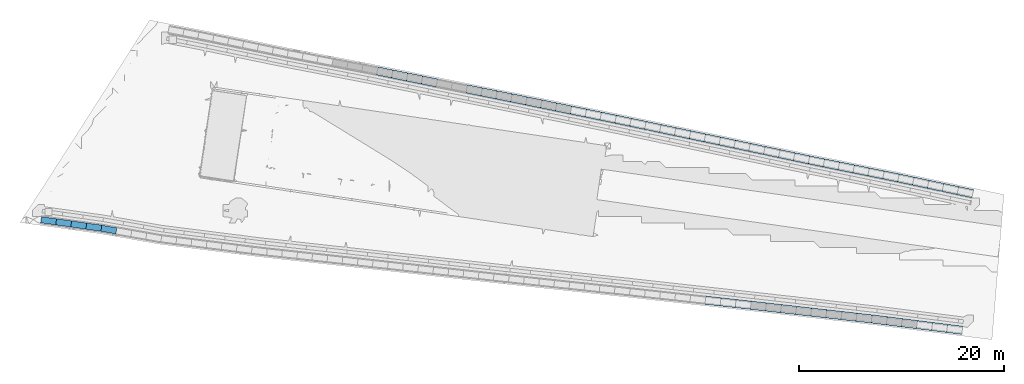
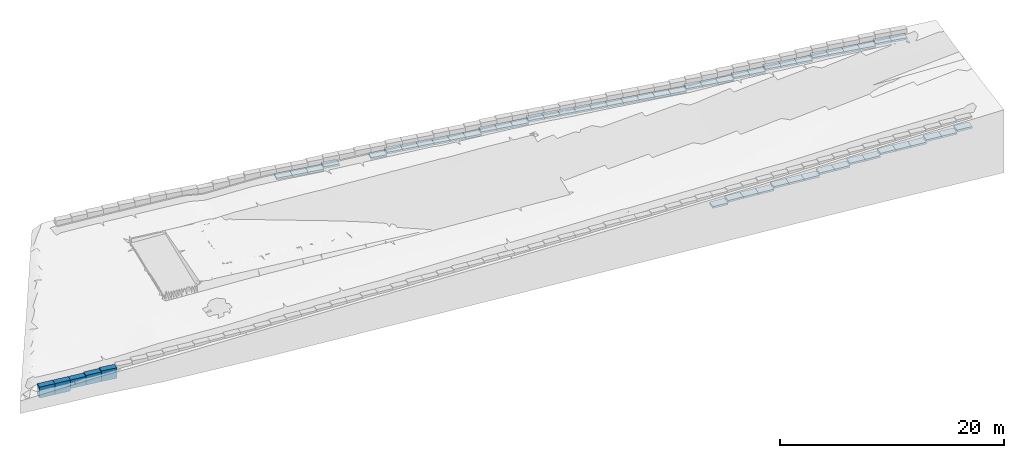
# Not in any storey, part 2 of 7: 55 footings, 5 walls.
"""IFC4 model written with IfcOpenShell, lengths in metres."""

from ifc_helpers import new_model, si_unit, direction, frame, origin_with_axes, place, context, subcontext, project, spatial, polyline, outline, extrude, material, element, save


model = new_model("IFC4")

# Units and contexts
model_context = context("Model", 3, precision=1e-05, world=origin_with_axes(), true_north=direction((0.0, 1.0)))
body_context = subcontext(model_context, "Body", "Model", "MODEL_VIEW")
ifc_project = project(units=[si_unit("VOLUMEUNIT", "CUBIC_METRE"), si_unit("LENGTHUNIT", "METRE"), si_unit("AREAUNIT", "SQUARE_METRE")], contexts=[model_context])

# Site
site_placement = place(None, origin_with_axes())
site = spatial("IfcSite", under=ifc_project, at=site_placement, Name="Lares · Rua das Mercês · artigo 4771")

# Footings
ifc_material_1 = material(Name="Betão armado / Stahlbeton", Category="concrete")
footing_1_placement = place(site_placement, frame((0.0, 0.0, 13.55), z_axis=(0.0, 0.0, 1.0), x_axis=(1.0, -1.03767253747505e-17, 0.0)))
element("IfcFooting", 1, at=footing_1_placement, inside=site, material=ifc_material_1, Name="Limite north · base 15", PredefinedType="STRIP_FOOTING", context=body_context, shape_type="SweptSolid", body=[
    extrude(outline(polyline([(24.2709499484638, 19.7570442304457), (24.1120919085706, 18.9729752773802), (22.6590709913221, 19.2673678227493), (22.8179290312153, 20.0514367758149), (24.2709499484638, 19.7570442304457)])), origin_with_axes(), (0.0, 0.0, 1.0), 0.2),
])
footing_2_placement = place(site_placement, frame((0.0, 0.0, 13.55), z_axis=(0.0, 0.0, 1.0), x_axis=(1.0, -1.03767253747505e-17, 0.0)))
element("IfcFooting", 2, at=footing_2_placement, inside=site, material=ifc_material_1, Name="Limite north · base 16", PredefinedType="STRIP_FOOTING", context=body_context, shape_type="SweptSolid", body=[
    extrude(outline(polyline([(25.7239708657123, 19.4626516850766), (25.5651128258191, 18.678582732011), (24.1120919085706, 18.9729752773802), (24.2709499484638, 19.7570442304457), (25.7239708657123, 19.4626516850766)])), origin_with_axes(), (0.0, 0.0, 1.0), 0.2),
])
footing_3_placement = place(site_placement, frame((0.0, 0.0, 13.55), z_axis=(0.0, 0.0, 1.0), x_axis=(1.0, -1.03767253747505e-17, 0.0)))
element("IfcFooting", 3, at=footing_3_placement, inside=site, material=ifc_material_1, Name="Limite north · base 17", PredefinedType="STRIP_FOOTING", context=body_context, shape_type="SweptSolid", body=[
    extrude(outline(polyline([(27.1769917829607, 19.1682591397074), (27.0181337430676, 18.3841901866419), (25.5651128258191, 18.678582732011), (25.7239708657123, 19.4626516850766), (27.1769917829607, 19.1682591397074)])), origin_with_axes(), (0.0, 0.0, 1.0), 0.2),
])
footing_4_placement = place(site_placement, frame((0.0, 0.0, 13.8), z_axis=(0.0, 0.0, 1.0), x_axis=(1.0, -1.03767253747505e-17, 0.0)))
element("IfcFooting", 4, at=footing_4_placement, inside=site, material=ifc_material_1, Name="Limite north · base 18", PredefinedType="STRIP_FOOTING", context=body_context, shape_type="SweptSolid", body=[
    extrude(outline(polyline([(27.7861335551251, 19.0448426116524), (28.62934831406, 18.8766201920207), (28.4728316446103, 18.0920804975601), (27.6290313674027, 18.2604197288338), (27.627860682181, 18.2606550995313), (27.0181337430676, 18.3841901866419), (27.1769917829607, 19.1682591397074), (27.7861335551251, 19.0448426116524)])), origin_with_axes(), (0.0, 0.0, 1.0), 0.2),
])
footing_5_placement = place(site_placement, frame((0.0, 0.0, 13.8), z_axis=(0.0, 0.0, 1.0), x_axis=(1.0, -1.03767253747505e-17, 0.0)))
element("IfcFooting", 5, at=footing_5_placement, inside=site, material=ifc_material_1, Name="Limite north · base 21", PredefinedType="STRIP_FOOTING", context=body_context, shape_type="SweptSolid", body=[
    extrude(outline(polyline([(32.9910281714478, 18.0064594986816), (32.8345115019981, 17.2219198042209), (31.3806182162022, 17.5119733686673), (31.5371348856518, 18.296513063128), (32.9910281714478, 18.0064594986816)])), origin_with_axes(), (0.0, 0.0, 1.0), 0.2),
])
footing_6_placement = place(site_placement, frame((0.0, 0.0, 14.05), z_axis=(0.0, 0.0, 1.0), x_axis=(1.0, -1.03767253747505e-17, 0.0)))
element("IfcFooting", 6, at=footing_6_placement, inside=site, material=ifc_material_1, Name="Limite north · base 22", PredefinedType="STRIP_FOOTING", context=body_context, shape_type="SweptSolid", body=[
    extrude(outline(polyline([(34.4449214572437, 17.7164059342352), (34.288404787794, 16.9318662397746), (32.8345115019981, 17.2219198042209), (32.9910281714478, 18.0064594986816), (34.4449214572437, 17.7164059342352)])), origin_with_axes(), (0.0, 0.0, 1.0), 0.2),
])
footing_7_placement = place(site_placement, frame((0.0, 0.0, 14.05), z_axis=(0.0, 0.0, 1.0), x_axis=(1.0, -1.03767253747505e-17, 0.0)))
element("IfcFooting", 7, at=footing_7_placement, inside=site, material=ifc_material_1, Name="Limite north · base 23", PredefinedType="STRIP_FOOTING", context=body_context, shape_type="SweptSolid", body=[
    extrude(outline(polyline([(35.8988147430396, 17.4263523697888), (35.74229807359, 16.6418126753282), (34.288404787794, 16.9318662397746), (34.4449214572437, 17.7164059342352), (35.8988147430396, 17.4263523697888)])), origin_with_axes(), (0.0, 0.0, 1.0), 0.2),
])
footing_8_placement = place(site_placement, frame((0.0, 0.0, 14.05), z_axis=(0.0, 0.0, 1.0), x_axis=(1.0, -1.03767253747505e-17, 0.0)))
element("IfcFooting", 8, at=footing_8_placement, inside=site, material=ifc_material_1, Name="Limite north · base 24", PredefinedType="STRIP_FOOTING", context=body_context, shape_type="SweptSolid", body=[
    extrude(outline(polyline([(36.6074929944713, 17.2849701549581), (36.6094703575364, 17.2845704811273), (37.3539261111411, 17.1321426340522), (37.1934547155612, 16.3484022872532), (36.4499871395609, 16.5006278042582), (35.74229807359, 16.6418126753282), (35.8988147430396, 17.4263523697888), (36.6074929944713, 17.2849701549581)])), origin_with_axes(), (0.0, 0.0, 1.0), 0.2),
])
footing_9_placement = place(site_placement, frame((0.0, 0.0, 14.05), z_axis=(0.0, 0.0, 1.0), x_axis=(1.0, -1.03767253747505e-17, 0.0)))
element("IfcFooting", 9, at=footing_9_placement, inside=site, material=ifc_material_1, Name="Limite north · base 25", PredefinedType="STRIP_FOOTING", context=body_context, shape_type="SweptSolid", body=[
    extrude(outline(polyline([(38.8063380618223, 16.8347602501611), (38.6458666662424, 16.051019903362), (37.1934547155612, 16.3484022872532), (37.3539261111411, 17.1321426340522), (38.8063380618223, 16.8347602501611)])), origin_with_axes(), (0.0, 0.0, 1.0), 0.2),
])
footing_10_placement = place(site_placement, frame((0.0, 0.0, 14.05), z_axis=(0.0, 0.0, 1.0), x_axis=(1.0, -1.03767253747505e-17, 0.0)))
element("IfcFooting", 10, at=footing_10_placement, inside=site, material=ifc_material_1, Name="Limite north · base 26", PredefinedType="STRIP_FOOTING", context=body_context, shape_type="SweptSolid", body=[
    extrude(outline(polyline([(40.2587500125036, 16.5373778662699), (40.0982786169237, 15.7536375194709), (38.6458666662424, 16.051019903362), (38.8063380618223, 16.8347602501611), (40.2587500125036, 16.5373778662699)])), origin_with_axes(), (0.0, 0.0, 1.0), 0.2),
])
footing_11_placement = place(site_placement, frame((0.0, 0.0, 14.05), z_axis=(0.0, 0.0, 1.0), x_axis=(1.0, -1.03767253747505e-17, 0.0)))
element("IfcFooting", 11, at=footing_11_placement, inside=site, material=ifc_material_1, Name="Limite north · base 27", PredefinedType="STRIP_FOOTING", context=body_context, shape_type="SweptSolid", body=[
    extrude(outline(polyline([(41.7111619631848, 16.2399954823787), (41.5506905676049, 15.4562551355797), (40.0982786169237, 15.7536375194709), (40.2587500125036, 16.5373778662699), (41.7111619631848, 16.2399954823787)])), origin_with_axes(), (0.0, 0.0, 1.0), 0.2),
])
footing_12_placement = place(site_placement, frame((0.0, 0.0, 14.3), z_axis=(0.0, 0.0, 1.0), x_axis=(1.0, -1.03767253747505e-17, 0.0)))
element("IfcFooting", 12, at=footing_12_placement, inside=site, material=ifc_material_1, Name="Limite north · base 28", PredefinedType="STRIP_FOOTING", context=body_context, shape_type="SweptSolid", body=[
    extrude(outline(polyline([(43.1635739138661, 15.9426130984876), (43.0031025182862, 15.1588727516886), (41.5506905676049, 15.4562551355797), (41.7111619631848, 16.2399954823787), (43.1635739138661, 15.9426130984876)])), origin_with_axes(), (0.0, 0.0, 1.0), 0.2),
])
footing_13_placement = place(site_placement, frame((0.0, 0.0, 14.3), z_axis=(0.0, 0.0, 1.0), x_axis=(1.0, -1.03767253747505e-17, 0.0)))
element("IfcFooting", 13, at=footing_13_placement, inside=site, material=ifc_material_1, Name="Limite north · base 29", PredefinedType="STRIP_FOOTING", context=body_context, shape_type="SweptSolid", body=[
    extrude(outline(polyline([(44.6159858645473, 15.6452307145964), (44.4555144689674, 14.8614903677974), (43.0031025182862, 15.1588727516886), (43.1635739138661, 15.9426130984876), (44.6159858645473, 15.6452307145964)])), origin_with_axes(), (0.0, 0.0, 1.0), 0.2),
])
footing_14_placement = place(site_placement, frame((0.0, 0.0, 14.3), z_axis=(0.0, 0.0, 1.0), x_axis=(1.0, -1.03767253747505e-17, 0.0)))
element("IfcFooting", 14, at=footing_14_placement, inside=site, material=ifc_material_1, Name="Limite north · base 30", PredefinedType="STRIP_FOOTING", context=body_context, shape_type="SweptSolid", body=[
    extrude(outline(polyline([(46.0683978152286, 15.3478483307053), (45.9079264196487, 14.5641079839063), (44.4555144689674, 14.8614903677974), (44.6159858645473, 15.6452307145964), (46.0683978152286, 15.3478483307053)])), origin_with_axes(), (0.0, 0.0, 1.0), 0.2),
])
footing_15_placement = place(site_placement, frame((0.0, 0.0, 14.55), z_axis=(0.0, 0.0, 1.0), x_axis=(1.0, -1.03767253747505e-17, 0.0)))
element("IfcFooting", 15, at=footing_15_placement, inside=site, material=ifc_material_1, Name="Limite north · base 31", PredefinedType="STRIP_FOOTING", context=body_context, shape_type="SweptSolid", body=[
    extrude(outline(polyline([(46.0958896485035, 15.3422193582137), (46.0978115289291, 15.3418209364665), (47.5212829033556, 15.0430791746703), (47.3569677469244, 14.2601356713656), (45.9344568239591, 14.5586758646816), (45.9079264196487, 14.5641079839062), (46.0683978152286, 15.3478483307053), (46.0958896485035, 15.3422193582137)])), origin_with_axes(), (0.0, 0.0, 1.0), 0.2),
])
footing_16_placement = place(site_placement, frame((0.0, 0.0, 14.55), z_axis=(0.0, 0.0, 1.0), x_axis=(1.0, -1.03767253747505e-17, 0.0)))
element("IfcFooting", 16, at=footing_16_placement, inside=site, material=ifc_material_1, Name="Limite north · base 32", PredefinedType="STRIP_FOOTING", context=body_context, shape_type="SweptSolid", body=[
    extrude(outline(polyline([(48.9722181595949, 14.7385736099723), (48.8079030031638, 13.9556301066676), (47.3569677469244, 14.2601356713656), (47.5212829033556, 15.0430791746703), (48.9722181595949, 14.7385736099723)])), origin_with_axes(), (0.0, 0.0, 1.0), 0.2),
])
footing_17_placement = place(site_placement, frame((0.0, 0.0, 14.55), z_axis=(0.0, 0.0, 1.0), x_axis=(1.0, -1.03767253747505e-17, 0.0)))
element("IfcFooting", 17, at=footing_17_placement, inside=site, material=ifc_material_1, Name="Limite north · base 33", PredefinedType="STRIP_FOOTING", context=body_context, shape_type="SweptSolid", body=[
    extrude(outline(polyline([(50.4231534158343, 14.4340680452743), (50.2588382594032, 13.6511245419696), (48.8079030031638, 13.9556301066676), (48.9722181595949, 14.7385736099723), (50.4231534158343, 14.4340680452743)])), origin_with_axes(), (0.0, 0.0, 1.0), 0.2),
])
footing_18_placement = place(site_placement, frame((0.0, 0.0, 14.55), z_axis=(0.0, 0.0, 1.0), x_axis=(1.0, -1.03767253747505e-17, 0.0)))
element("IfcFooting", 18, at=footing_18_placement, inside=site, material=ifc_material_1, Name="Limite north · base 34", PredefinedType="STRIP_FOOTING", context=body_context, shape_type="SweptSolid", body=[
    extrude(outline(polyline([(51.8740886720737, 14.1295624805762), (51.7097735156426, 13.3466189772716), (50.2588382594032, 13.6511245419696), (50.4231534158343, 14.4340680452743), (51.8740886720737, 14.1295624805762)])), origin_with_axes(), (0.0, 0.0, 1.0), 0.2),
])
footing_19_placement = place(site_placement, frame((0.0, 0.0, 14.55), z_axis=(0.0, 0.0, 1.0), x_axis=(1.0, -1.03767253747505e-17, 0.0)))
element("IfcFooting", 19, at=footing_19_placement, inside=site, material=ifc_material_1, Name="Limite north · base 35", PredefinedType="STRIP_FOOTING", context=body_context, shape_type="SweptSolid", body=[
    extrude(outline(polyline([(53.3250239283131, 13.8250569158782), (53.1607087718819, 13.0421134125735), (51.7097735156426, 13.3466189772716), (51.8740886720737, 14.1295624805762), (53.3250239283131, 13.8250569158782)])), origin_with_axes(), (0.0, 0.0, 1.0), 0.2),
])
footing_20_placement = place(site_placement, frame((0.0, 0.0, 14.55), z_axis=(0.0, 0.0, 1.0), x_axis=(1.0, -1.03767253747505e-17, 0.0)))
element("IfcFooting", 20, at=footing_20_placement, inside=site, material=ifc_material_1, Name="Limite north · base 36", PredefinedType="STRIP_FOOTING", context=body_context, shape_type="SweptSolid", body=[
    extrude(outline(polyline([(54.7759591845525, 13.5205513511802), (54.6116440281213, 12.7376078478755), (53.1607087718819, 13.0421134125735), (53.3250239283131, 13.8250569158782), (54.7759591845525, 13.5205513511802)])), origin_with_axes(), (0.0, 0.0, 1.0), 0.2),
])
footing_21_placement = place(site_placement, frame((0.0, 0.0, 14.55), z_axis=(0.0, 0.0, 1.0), x_axis=(1.0, -1.03767253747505e-17, 0.0)))
element("IfcFooting", 21, at=footing_21_placement, inside=site, material=ifc_material_1, Name="Limite north · base 37", PredefinedType="STRIP_FOOTING", context=body_context, shape_type="SweptSolid", body=[
    extrude(outline(polyline([(56.2268944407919, 13.2160457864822), (56.0625792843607, 12.4331022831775), (54.6116440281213, 12.7376078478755), (54.7759591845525, 13.5205513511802), (56.2268944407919, 13.2160457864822)])), origin_with_axes(), (0.0, 0.0, 1.0), 0.2),
])
footing_22_placement = place(site_placement, frame((0.0, 0.0, 14.55), z_axis=(0.0, 0.0, 1.0), x_axis=(1.0, -1.03767253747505e-17, 0.0)))
element("IfcFooting", 22, at=footing_22_placement, inside=site, material=ifc_material_1, Name="Limite north · base 38", PredefinedType="STRIP_FOOTING", context=body_context, shape_type="SweptSolid", body=[
    extrude(outline(polyline([(56.4968774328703, 13.1593848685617), (56.4974787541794, 13.1592581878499), (57.6780488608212, 12.9095995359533), (57.5125310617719, 12.1269093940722), (56.3322615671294, 12.3765044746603), (56.0625792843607, 12.4331022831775), (56.2268944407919, 13.2160457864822), (56.4968774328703, 13.1593848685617)])), origin_with_axes(), (0.0, 0.0, 1.0), 0.2),
])
footing_23_placement = place(site_placement, frame((0.0, 0.0, 14.55), z_axis=(0.0, 0.0, 1.0), x_axis=(1.0, -1.03767253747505e-17, 0.0)))
element("IfcFooting", 23, at=footing_23_placement, inside=site, material=ifc_material_1, Name="Limite north · base 39", PredefinedType="STRIP_FOOTING", context=body_context, shape_type="SweptSolid", body=[
    extrude(outline(polyline([(59.1285145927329, 12.6028652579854), (58.9629967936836, 11.8201751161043), (57.5125310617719, 12.1269093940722), (57.6780488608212, 12.9095995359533), (59.1285145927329, 12.6028652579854)])), origin_with_axes(), (0.0, 0.0, 1.0), 0.2),
])
footing_24_placement = place(site_placement, frame((0.0, 0.0, 14.55), z_axis=(0.0, 0.0, 1.0), x_axis=(1.0, -1.03767253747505e-17, 0.0)))
element("IfcFooting", 24, at=footing_24_placement, inside=site, material=ifc_material_1, Name="Limite north · base 40", PredefinedType="STRIP_FOOTING", context=body_context, shape_type="SweptSolid", body=[
    extrude(outline(polyline([(60.5789803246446, 12.2961309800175), (60.4134625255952, 11.5134408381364), (58.9629967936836, 11.8201751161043), (59.1285145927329, 12.6028652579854), (60.5789803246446, 12.2961309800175)])), origin_with_axes(), (0.0, 0.0, 1.0), 0.2),
])
footing_25_placement = place(site_placement, frame((0.0, 0.0, 14.8), z_axis=(0.0, 0.0, 1.0), x_axis=(1.0, -1.03767253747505e-17, 0.0)))
element("IfcFooting", 25, at=footing_25_placement, inside=site, material=ifc_material_1, Name="Limite north · base 41", PredefinedType="STRIP_FOOTING", context=body_context, shape_type="SweptSolid", body=[
    extrude(outline(polyline([(62.0294460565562, 11.9893967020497), (61.8639282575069, 11.2067065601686), (60.4134625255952, 11.5134408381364), (60.5789803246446, 12.2961309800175), (62.0294460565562, 11.9893967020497)])), origin_with_axes(), (0.0, 0.0, 1.0), 0.2),
])
footing_26_placement = place(site_placement, frame((0.0, 0.0, 14.8), z_axis=(0.0, 0.0, 1.0), x_axis=(1.0, -1.03767253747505e-17, 0.0)))
element("IfcFooting", 26, at=footing_26_placement, inside=site, material=ifc_material_1, Name="Limite north · base 42", PredefinedType="STRIP_FOOTING", context=body_context, shape_type="SweptSolid", body=[
    extrude(outline(polyline([(63.4799117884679, 11.6826624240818), (63.3143939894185, 10.8999722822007), (61.8639282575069, 11.2067065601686), (62.0294460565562, 11.9893967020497), (63.4799117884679, 11.6826624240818)])), origin_with_axes(), (0.0, 0.0, 1.0), 0.2),
])
footing_27_placement = place(site_placement, frame((0.0, 0.0, 14.8), z_axis=(0.0, 0.0, 1.0), x_axis=(1.0, -1.03767253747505e-17, 0.0)))
element("IfcFooting", 27, at=footing_27_placement, inside=site, material=ifc_material_1, Name="Limite north · base 43", PredefinedType="STRIP_FOOTING", context=body_context, shape_type="SweptSolid", body=[
    extrude(outline(polyline([(64.9303775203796, 11.3759281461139), (64.7648597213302, 10.5932380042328), (63.3143939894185, 10.8999722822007), (63.4799117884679, 11.6826624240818), (64.9303775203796, 11.3759281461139)])), origin_with_axes(), (0.0, 0.0, 1.0), 0.2),
])
footing_28_placement = place(site_placement, frame((0.0, 0.0, 15.05), z_axis=(0.0, 0.0, 1.0), x_axis=(1.0, -1.03767253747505e-17, 0.0)))
element("IfcFooting", 28, at=footing_28_placement, inside=site, material=ifc_material_1, Name="Limite north · base 44", PredefinedType="STRIP_FOOTING", context=body_context, shape_type="SweptSolid", body=[
    extrude(outline(polyline([(65.1877535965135, 11.321500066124), (66.3794796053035, 11.0811360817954), (66.221309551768, 10.2969280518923), (65.0277448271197, 10.5376628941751), (65.0240709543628, 10.5384218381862), (64.7648597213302, 10.5932380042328), (64.9303775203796, 11.3759281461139), (65.1877535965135, 11.321500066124)])), origin_with_axes(), (0.0, 0.0, 1.0), 0.2),
])
footing_29_placement = place(site_placement, frame((0.0, 0.0, 15.05), z_axis=(0.0, 0.0, 1.0), x_axis=(1.0, -1.03767253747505e-17, 0.0)))
element("IfcFooting", 29, at=footing_29_placement, inside=site, material=ifc_material_1, Name="Limite north · base 45", PredefinedType="STRIP_FOOTING", context=body_context, shape_type="SweptSolid", body=[
    extrude(outline(polyline([(67.8327582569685, 10.7880184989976), (67.674588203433, 10.0038104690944), (66.221309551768, 10.2969280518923), (66.3794796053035, 11.0811360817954), (67.8327582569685, 10.7880184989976)])), origin_with_axes(), (0.0, 0.0, 1.0), 0.2),
])
footing_30_placement = place(site_placement, frame((0.0, 0.0, 15.3), z_axis=(0.0, 0.0, 1.0), x_axis=(1.0, -1.03767253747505e-17, 0.0)))
element("IfcFooting", 30, at=footing_30_placement, inside=site, material=ifc_material_1, Name="Limite north · base 46", PredefinedType="STRIP_FOOTING", context=body_context, shape_type="SweptSolid", body=[
    extrude(outline(polyline([(69.2860369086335, 10.4949009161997), (69.127866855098, 9.71069288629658), (67.674588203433, 10.0038104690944), (67.8327582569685, 10.7880184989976), (69.2860369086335, 10.4949009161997)])), origin_with_axes(), (0.0, 0.0, 1.0), 0.2),
])
footing_31_placement = place(site_placement, frame((0.0, 0.0, 15.3), z_axis=(0.0, 0.0, 1.0), x_axis=(1.0, -1.03767253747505e-17, 0.0)))
element("IfcFooting", 31, at=footing_31_placement, inside=site, material=ifc_material_1, Name="Limite north · base 47", PredefinedType="STRIP_FOOTING", context=body_context, shape_type="SweptSolid", body=[
    extrude(outline(polyline([(70.7393155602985, 10.2017833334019), (70.581145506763, 9.41757530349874), (69.127866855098, 9.71069288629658), (69.2860369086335, 10.4949009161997), (70.7393155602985, 10.2017833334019)])), origin_with_axes(), (0.0, 0.0, 1.0), 0.2),
])
footing_32_placement = place(site_placement, frame((0.0, 0.0, 15.3), z_axis=(0.0, 0.0, 1.0), x_axis=(1.0, -1.03767253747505e-17, 0.0)))
element("IfcFooting", 32, at=footing_32_placement, inside=site, material=ifc_material_1, Name="Limite north · base 48", PredefinedType="STRIP_FOOTING", context=body_context, shape_type="SweptSolid", body=[
    extrude(outline(polyline([(72.1925942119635, 9.90866575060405), (72.034424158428, 9.1244577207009), (70.581145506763, 9.41757530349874), (70.7393155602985, 10.2017833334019), (72.1925942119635, 9.90866575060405)])), origin_with_axes(), (0.0, 0.0, 1.0), 0.2),
])
footing_33_placement = place(site_placement, frame((0.0, 0.0, 15.55), z_axis=(0.0, 0.0, 1.0), x_axis=(1.0, -1.03767253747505e-17, 0.0)))
element("IfcFooting", 33, at=footing_33_placement, inside=site, material=ifc_material_1, Name="Limite north · base 49", PredefinedType="STRIP_FOOTING", context=body_context, shape_type="SweptSolid", body=[
    extrude(outline(polyline([(73.5091643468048, 9.64312145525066), (73.5132018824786, 9.64228542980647), (73.6496189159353, 9.61330444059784), (73.4833737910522, 8.83076846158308), (73.3489733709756, 8.85932103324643), (72.034424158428, 9.1244577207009), (72.1925942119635, 9.90866575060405), (73.5091643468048, 9.64312145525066)])), origin_with_axes(), (0.0, 0.0, 1.0), 0.2),
])
footing_34_placement = place(site_placement, frame((0.0, 0.0, 15.55), z_axis=(0.0, 0.0, 1.0), x_axis=(1.0, -1.03767253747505e-17, 0.0)))
element("IfcFooting", 34, at=footing_34_placement, inside=site, material=ifc_material_1, Name="Limite north · base 50", PredefinedType="STRIP_FOOTING", context=body_context, shape_type="SweptSolid", body=[
    extrude(outline(polyline([(75.0997989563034, 9.30522229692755), (74.9335538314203, 8.52268631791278), (73.4833737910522, 8.83076846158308), (73.6496189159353, 9.61330444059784), (75.0997989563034, 9.30522229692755)])), origin_with_axes(), (0.0, 0.0, 1.0), 0.2),
])
footing_35_placement = place(site_placement, frame((0.0, 0.0, 15.55), z_axis=(0.0, 0.0, 1.0), x_axis=(1.0, -1.03767253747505e-17, 0.0)))
element("IfcFooting", 35, at=footing_35_placement, inside=site, material=ifc_material_1, Name="Limite north · base 51", PredefinedType="STRIP_FOOTING", context=body_context, shape_type="SweptSolid", body=[
    extrude(outline(polyline([(76.5499789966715, 8.99714015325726), (76.3837338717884, 8.21460417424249), (74.9335538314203, 8.52268631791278), (75.0997989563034, 9.30522229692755), (76.5499789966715, 8.99714015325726)])), origin_with_axes(), (0.0, 0.0, 1.0), 0.2),
])
footing_36_placement = place(site_placement, frame((0.0, 0.0, 15.55), z_axis=(0.0, 0.0, 1.0), x_axis=(1.0, -1.03767253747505e-17, 0.0)))
element("IfcFooting", 36, at=footing_36_placement, inside=site, material=ifc_material_1, Name="Limite north · base 52", PredefinedType="STRIP_FOOTING", context=body_context, shape_type="SweptSolid", body=[
    extrude(outline(polyline([(78.0001590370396, 8.68905800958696), (77.8339139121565, 7.9065220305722), (76.3837338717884, 8.21460417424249), (76.5499789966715, 8.99714015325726), (78.0001590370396, 8.68905800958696)])), origin_with_axes(), (0.0, 0.0, 1.0), 0.2),
])
footing_37_placement = place(site_placement, frame((0.0, 0.0, 15.8), z_axis=(0.0, 0.0, 1.0), x_axis=(1.0, -1.03767253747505e-17, 0.0)))
element("IfcFooting", 37, at=footing_37_placement, inside=site, material=ifc_material_1, Name="Limite north · base 53", PredefinedType="STRIP_FOOTING", context=body_context, shape_type="SweptSolid", body=[
    extrude(outline(polyline([(79.4503390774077, 8.38097586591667), (79.2840939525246, 7.5984398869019), (77.8339139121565, 7.9065220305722), (78.0001590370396, 8.68905800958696), (79.4503390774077, 8.38097586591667)])), origin_with_axes(), (0.0, 0.0, 1.0), 0.2),
])
footing_38_placement = place(site_placement, frame((0.0, 0.0, 15.8), z_axis=(0.0, 0.0, 1.0), x_axis=(1.0, -1.03767253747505e-17, 0.0)))
element("IfcFooting", 38, at=footing_38_placement, inside=site, material=ifc_material_1, Name="Limite north · base 54", PredefinedType="STRIP_FOOTING", context=body_context, shape_type="SweptSolid", body=[
    extrude(outline(polyline([(80.9005191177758, 8.07289372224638), (80.7342739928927, 7.29035774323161), (79.2840939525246, 7.5984398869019), (79.4503390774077, 8.38097586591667), (80.9005191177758, 8.07289372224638)])), origin_with_axes(), (0.0, 0.0, 1.0), 0.2),
])
footing_39_placement = place(site_placement, frame((0.0, 0.0, 12.8), z_axis=(0.0, 0.0, 1.0), x_axis=(1.0, -1.03767253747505e-17, 0.0)))
element("IfcFooting", 39, at=footing_39_placement, inside=site, material=ifc_material_1, Name="Limite south · base 45", PredefinedType="STRIP_FOOTING", context=body_context, shape_type="SweptSolid", body=[
    extrude(outline(polyline([(56.2614767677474, -2.46770416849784), (56.1731897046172, -3.26281761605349), (54.6986668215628, -3.09909092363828), (54.786953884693, -2.30397747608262), (56.2614767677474, -2.46770416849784)])), origin_with_axes(), (0.0, 0.0, 1.0), 0.2),
])
footing_40_placement = place(site_placement, frame((0.0, 0.0, 13.05), z_axis=(0.0, 0.0, 1.0), x_axis=(1.0, -1.03767253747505e-17, 0.0)))
element("IfcFooting", 40, at=footing_40_placement, inside=site, material=ifc_material_1, Name="Limite south · base 46", PredefinedType="STRIP_FOOTING", context=body_context, shape_type="SweptSolid", body=[
    extrude(outline(polyline([(57.7359996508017, -2.63143086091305), (57.6477125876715, -3.42654430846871), (56.1731897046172, -3.26281761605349), (56.2614767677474, -2.46770416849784), (57.7359996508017, -2.63143086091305)])), origin_with_axes(), (0.0, 0.0, 1.0), 0.2),
])
footing_41_placement = place(site_placement, frame((0.0, 0.0, 13.05), z_axis=(0.0, 0.0, 1.0), x_axis=(1.0, -1.03767253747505e-17, 0.0)))
element("IfcFooting", 41, at=footing_41_placement, inside=site, material=ifc_material_1, Name="Limite south · base 47", PredefinedType="STRIP_FOOTING", context=body_context, shape_type="SweptSolid", body=[
    extrude(outline(polyline([(59.210522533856, -2.79515755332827), (59.1222354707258, -3.59027100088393), (57.6477125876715, -3.42654430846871), (57.7359996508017, -2.63143086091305), (59.210522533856, -2.79515755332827)])), origin_with_axes(), (0.0, 0.0, 1.0), 0.2),
])
footing_42_placement = place(site_placement, frame((0.0, 0.0, 13.05), z_axis=(0.0, 0.0, 1.0), x_axis=(1.0, -1.03767253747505e-17, 0.0)))
element("IfcFooting", 42, at=footing_42_placement, inside=site, material=ifc_material_1, Name="Limite south · base 48", PredefinedType="STRIP_FOOTING", context=body_context, shape_type="SweptSolid", body=[
    extrude(outline(polyline([(59.3782597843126, -2.81378260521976), (59.3793052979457, -2.81390008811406), (60.6857047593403, -2.96243837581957), (60.595326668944, -3.75731685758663), (59.289449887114, -3.60883799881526), (59.1222354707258, -3.59027100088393), (59.210522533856, -2.79515755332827), (59.3782597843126, -2.81378260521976)])), origin_with_axes(), (0.0, 0.0, 1.0), 0.2),
])
footing_43_placement = place(site_placement, frame((0.0, 0.0, 13.3), z_axis=(0.0, 0.0, 1.0), x_axis=(1.0, -1.03767253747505e-17, 0.0)))
element("IfcFooting", 43, at=footing_43_placement, inside=site, material=ifc_material_1, Name="Limite south · base 49", PredefinedType="STRIP_FOOTING", context=body_context, shape_type="SweptSolid", body=[
    extrude(outline(polyline([(62.159791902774, -3.1300428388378), (62.0694138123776, -3.92492132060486), (60.595326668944, -3.75731685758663), (60.6857047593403, -2.96243837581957), (62.159791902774, -3.1300428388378)])), origin_with_axes(), (0.0, 0.0, 1.0), 0.2),
])
footing_44_placement = place(site_placement, frame((0.0, 0.0, 13.3), z_axis=(0.0, 0.0, 1.0), x_axis=(1.0, -1.03767253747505e-17, 0.0)))
element("IfcFooting", 44, at=footing_44_placement, inside=site, material=ifc_material_1, Name="Limite south · base 50", PredefinedType="STRIP_FOOTING", context=body_context, shape_type="SweptSolid", body=[
    extrude(outline(polyline([(63.6338790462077, -3.29764730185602), (63.5435009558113, -4.09252578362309), (62.0694138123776, -3.92492132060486), (62.159791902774, -3.1300428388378), (63.6338790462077, -3.29764730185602)])), origin_with_axes(), (0.0, 0.0, 1.0), 0.2),
])
footing_45_placement = place(site_placement, frame((0.0, 0.0, 13.3), z_axis=(0.0, 0.0, 1.0), x_axis=(1.0, -1.03767253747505e-17, 0.0)))
element("IfcFooting", 45, at=footing_45_placement, inside=site, material=ifc_material_1, Name="Limite south · base 51", PredefinedType="STRIP_FOOTING", context=body_context, shape_type="SweptSolid", body=[
    extrude(outline(polyline([(65.1079661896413, -3.46525176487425), (65.017588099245, -4.26013024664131), (63.5435009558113, -4.09252578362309), (63.6338790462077, -3.29764730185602), (65.1079661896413, -3.46525176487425)])), origin_with_axes(), (0.0, 0.0, 1.0), 0.2),
])
footing_46_placement = place(site_placement, frame((0.0, 0.0, 13.55), z_axis=(0.0, 0.0, 1.0), x_axis=(1.0, -1.03767253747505e-17, 0.0)))
element("IfcFooting", 46, at=footing_46_placement, inside=site, material=ifc_material_1, Name="Limite south · base 52", PredefinedType="STRIP_FOOTING", context=body_context, shape_type="SweptSolid", body=[
    extrude(outline(polyline([(66.582053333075, -3.63285622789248), (66.4916752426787, -4.42773470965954), (65.017588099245, -4.26013024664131), (65.1079661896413, -3.46525176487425), (66.582053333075, -3.63285622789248)])), origin_with_axes(), (0.0, 0.0, 1.0), 0.2),
])
footing_47_placement = place(site_placement, frame((0.0, 0.0, 13.55), z_axis=(0.0, 0.0, 1.0), x_axis=(1.0, -1.03767253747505e-17, 0.0)))
element("IfcFooting", 47, at=footing_47_placement, inside=site, material=ifc_material_1, Name="Limite south · base 53", PredefinedType="STRIP_FOOTING", context=body_context, shape_type="SweptSolid", body=[
    extrude(outline(polyline([(68.0561404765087, -3.80046069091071), (67.9657623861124, -4.59533917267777), (66.4916752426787, -4.42773470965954), (66.582053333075, -3.63285622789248), (68.0561404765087, -3.80046069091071)])), origin_with_axes(), (0.0, 0.0, 1.0), 0.2),
])
footing_48_placement = place(site_placement, frame((0.0, 0.0, 13.8), z_axis=(0.0, 0.0, 1.0), x_axis=(1.0, -1.03767253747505e-17, 0.0)))
element("IfcFooting", 48, at=footing_48_placement, inside=site, material=ifc_material_1, Name="Limite south · base 54", PredefinedType="STRIP_FOOTING", context=body_context, shape_type="SweptSolid", body=[
    extrude(outline(polyline([(69.5302276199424, -3.96806515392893), (69.4398495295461, -4.762943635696), (67.9657623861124, -4.59533917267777), (68.0561404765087, -3.80046069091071), (69.5302276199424, -3.96806515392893)])), origin_with_axes(), (0.0, 0.0, 1.0), 0.2),
])
footing_49_placement = place(site_placement, frame((0.0, 0.0, 13.8), z_axis=(0.0, 0.0, 1.0), x_axis=(1.0, -1.03767253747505e-17, 0.0)))
element("IfcFooting", 49, at=footing_49_placement, inside=site, material=ifc_material_1, Name="Limite south · base 55", PredefinedType="STRIP_FOOTING", context=body_context, shape_type="SweptSolid", body=[
    extrude(outline(polyline([(71.0043147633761, -4.13566961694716), (70.9139366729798, -4.93054809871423), (69.4398495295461, -4.762943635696), (69.5302276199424, -3.96806515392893), (71.0043147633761, -4.13566961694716)])), origin_with_axes(), (0.0, 0.0, 1.0), 0.2),
])
footing_50_placement = place(site_placement, frame((0.0, 0.0, 14.05), z_axis=(0.0, 0.0, 1.0), x_axis=(1.0, -1.03767253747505e-17, 0.0)))
element("IfcFooting", 50, at=footing_50_placement, inside=site, material=ifc_material_1, Name="Limite south · base 56", PredefinedType="STRIP_FOOTING", context=body_context, shape_type="SweptSolid", body=[
    extrude(outline(polyline([(71.393779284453, -4.17995193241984), (71.3985108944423, -4.18051848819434), (72.4815873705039, -4.3167533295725), (72.3817460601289, -5.11049869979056), (71.3010337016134, -4.97456122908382), (70.9139366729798, -4.93054809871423), (71.0043147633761, -4.13566961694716), (71.393779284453, -4.17995193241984)])), origin_with_axes(), (0.0, 0.0, 1.0), 0.2),
])
footing_51_placement = place(site_placement, frame((0.0, 0.0, 14.05), z_axis=(0.0, 0.0, 1.0), x_axis=(1.0, -1.03767253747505e-17, 0.0)))
element("IfcFooting", 51, at=footing_51_placement, inside=site, material=ifc_material_1, Name="Limite south · base 57", PredefinedType="STRIP_FOOTING", context=body_context, shape_type="SweptSolid", body=[
    extrude(outline(polyline([(73.9535731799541, -4.50190715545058), (73.8537318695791, -5.29565252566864), (72.3817460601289, -5.11049869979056), (72.4815873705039, -4.3167533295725), (73.9535731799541, -4.50190715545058)])), origin_with_axes(), (0.0, 0.0, 1.0), 0.2),
])
footing_52_placement = place(site_placement, frame((0.0, 0.0, 14.05), z_axis=(0.0, 0.0, 1.0), x_axis=(1.0, -1.03767253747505e-17, 0.0)))
element("IfcFooting", 52, at=footing_52_placement, inside=site, material=ifc_material_1, Name="Limite south · base 58", PredefinedType="STRIP_FOOTING", context=body_context, shape_type="SweptSolid", body=[
    extrude(outline(polyline([(75.4255589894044, -4.68706098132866), (75.3257176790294, -5.48080635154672), (73.8537318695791, -5.29565252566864), (73.9535731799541, -4.50190715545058), (75.4255589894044, -4.68706098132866)])), origin_with_axes(), (0.0, 0.0, 1.0), 0.2),
])
footing_53_placement = place(site_placement, frame((0.0, 0.0, 14.3), z_axis=(0.0, 0.0, 1.0), x_axis=(1.0, -1.03767253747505e-17, 0.0)))
element("IfcFooting", 53, at=footing_53_placement, inside=site, material=ifc_material_1, Name="Limite south · base 59", PredefinedType="STRIP_FOOTING", context=body_context, shape_type="SweptSolid", body=[
    extrude(outline(polyline([(76.8975447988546, -4.87221480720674), (76.7977034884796, -5.6659601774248), (75.3257176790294, -5.48080635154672), (75.4255589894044, -4.68706098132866), (76.8975447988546, -4.87221480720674)])), origin_with_axes(), (0.0, 0.0, 1.0), 0.2),
])
footing_54_placement = place(site_placement, frame((0.0, 0.0, 14.3), z_axis=(0.0, 0.0, 1.0), x_axis=(1.0, -1.03767253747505e-17, 0.0)))
element("IfcFooting", 54, at=footing_54_placement, inside=site, material=ifc_material_1, Name="Limite south · base 60", PredefinedType="STRIP_FOOTING", context=body_context, shape_type="SweptSolid", body=[
    extrude(outline(polyline([(78.3695306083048, -5.05736863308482), (78.2696892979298, -5.85111400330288), (76.7977034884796, -5.6659601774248), (76.8975447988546, -4.87221480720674), (78.3695306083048, -5.05736863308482)])), origin_with_axes(), (0.0, 0.0, 1.0), 0.2),
])
footing_55_placement = place(site_placement, frame((0.0, 0.0, 14.55), z_axis=(0.0, 0.0, 1.0), x_axis=(1.0, -1.03767253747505e-17, 0.0)))
element("IfcFooting", 55, at=footing_55_placement, inside=site, material=ifc_material_1, Name="Limite south · base 61", PredefinedType="STRIP_FOOTING", context=body_context, shape_type="SweptSolid", body=[
    extrude(outline(polyline([(79.841516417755, -5.2425224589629), (79.74167510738, -6.03626782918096), (78.2696892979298, -5.85111400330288), (78.3695306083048, -5.05736863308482), (79.841516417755, -5.2425224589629)])), origin_with_axes(), (0.0, 0.0, 1.0), 0.2),
])

# Walls
ifc_material_2 = material(Name="Pedra natural · contenção conceptual", Category="stone")
wall_1_placement = place(site_placement, frame((0.0, 0.0, 10.0), z_axis=(0.0, 0.0, 1.0), x_axis=(1.0, -1.03767253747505e-17, 0.0)))
element("IfcWall", 56, at=wall_1_placement, inside=site, material=ifc_material_2, Name="Limite south · pedra 01", ObjectType="CONCEPT_STONE_RETAINING_EDGE", PredefinedType="USERDEFINED", context=body_context, shape_type="SweptSolid", body=[
    extrude(outline(polyline([(-8.53815838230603, 5.23519031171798), (-8.62176485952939, 4.64104390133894), (-10.0908759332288, 4.84777274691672), (-10.0072694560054, 5.44191915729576), (-8.53815838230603, 5.23519031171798)])), origin_with_axes(), (0.0, 0.0, 1.0), 1.2),
])
wall_2_placement = place(site_placement, frame((0.0, 0.0, 10.0), z_axis=(0.0, 0.0, 1.0), x_axis=(1.0, -1.03767253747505e-17, 0.0)))
element("IfcWall", 57, at=wall_2_placement, inside=site, material=ifc_material_2, Name="Limite south · pedra 02", ObjectType="CONCEPT_STONE_RETAINING_EDGE", PredefinedType="USERDEFINED", context=body_context, shape_type="SweptSolid", body=[
    extrude(outline(polyline([(-7.06904730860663, 5.0284614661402), (-7.15265378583, 4.43431505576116), (-8.62176485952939, 4.64104390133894), (-8.53815838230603, 5.23519031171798), (-7.06904730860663, 5.0284614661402)])), origin_with_axes(), (0.0, 0.0, 1.0), 1.2),
])
wall_3_placement = place(site_placement, frame((0.0, 0.0, 10.25), z_axis=(0.0, 0.0, 1.0), x_axis=(1.0, -1.03767253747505e-17, 0.0)))
element("IfcWall", 58, at=wall_3_placement, inside=site, material=ifc_material_2, Name="Limite south · pedra 03", ObjectType="CONCEPT_STONE_RETAINING_EDGE", PredefinedType="USERDEFINED", context=body_context, shape_type="SweptSolid", body=[
    extrude(outline(polyline([(-5.59993623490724, 4.82173262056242), (-5.6835427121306, 4.22758621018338), (-7.15265378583, 4.43431505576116), (-7.06904730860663, 5.0284614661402), (-5.59993623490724, 4.82173262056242)])), origin_with_axes(), (0.0, 0.0, 1.0), 0.950000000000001),
])
wall_4_placement = place(site_placement, frame((0.0, 0.0, 10.25), z_axis=(0.0, 0.0, 1.0), x_axis=(1.0, -1.03767253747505e-17, 0.0)))
element("IfcWall", 59, at=wall_4_placement, inside=site, material=ifc_material_2, Name="Limite south · pedra 04", ObjectType="CONCEPT_STONE_RETAINING_EDGE", PredefinedType="USERDEFINED", context=body_context, shape_type="SweptSolid", body=[
    extrude(outline(polyline([(-4.13082516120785, 4.61500377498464), (-4.21443163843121, 4.0208573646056), (-5.6835427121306, 4.22758621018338), (-5.59993623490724, 4.82173262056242), (-4.13082516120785, 4.61500377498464)])), origin_with_axes(), (0.0, 0.0, 1.0), 1.05),
])
wall_5_placement = place(site_placement, frame((0.0, 0.0, 10.25), z_axis=(0.0, 0.0, 1.0), x_axis=(1.0, -1.03767253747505e-17, 0.0)))
element("IfcWall", 60, at=wall_5_placement, inside=site, material=ifc_material_2, Name="Limite south · pedra 05", ObjectType="CONCEPT_STONE_RETAINING_EDGE", PredefinedType="USERDEFINED", context=body_context, shape_type="SweptSolid", body=[
    extrude(outline(polyline([(-4.2139096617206, 4.02456677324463), (-4.13082516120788, 4.61500377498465), (-4.12843279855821, 4.61466712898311), (-4.11807096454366, 4.61302378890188), (-2.65946580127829, 4.35547283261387), (-2.76379594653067, 3.76461310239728), (-4.22240110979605, 4.02216405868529), (-4.22175709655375, 4.02581134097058), (-4.2139096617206, 4.02456677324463)])), origin_with_axes(), (0.0, 0.0, 1.0), 1.15),
])

save(model, "model.ifc")
